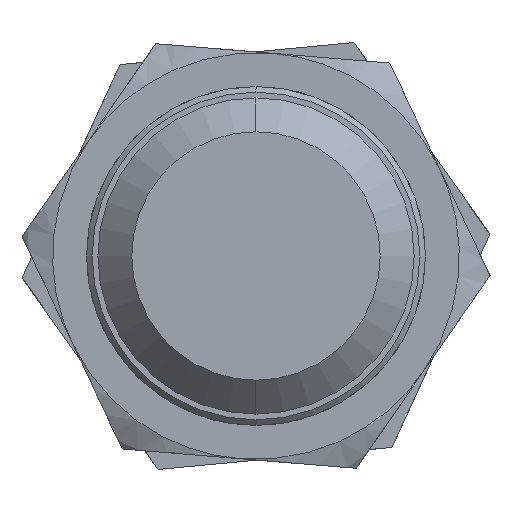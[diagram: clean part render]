
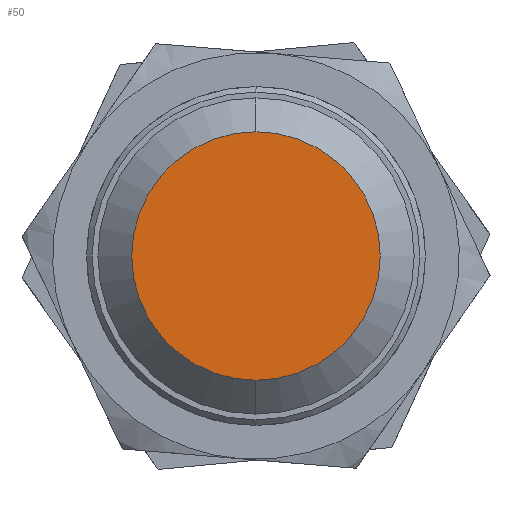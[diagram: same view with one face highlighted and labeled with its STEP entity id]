
A CAD part, left-side view. The second image highlights one B-rep face of the part: STEP entity #50.
In plain terms, the highlighted planar face has unit normal (-1, 0, 0).
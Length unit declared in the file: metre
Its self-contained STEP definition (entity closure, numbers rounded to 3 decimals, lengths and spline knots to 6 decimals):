
#16 = VERTEX_POINT ( 'NONE', #1278 ) ;
#50 = ADVANCED_FACE ( 'NONE', ( #971 ), #560, .F. ) ;
#64 = DIRECTION ( 'NONE',  ( 0., 0., -1. ) ) ;
#180 = ORIENTED_EDGE ( 'NONE', *, *, #1444, .T. ) ;
#233 = VERTEX_POINT ( 'NONE', #438 ) ;
#290 = AXIS2_PLACEMENT_3D ( 'NONE', #935, #1169, #1499 ) ;
#305 = EDGE_LOOP ( 'NONE', ( #601, #180 ) ) ;
#438 = CARTESIAN_POINT ( 'NONE',  ( 0., 0., -0.011 ) ) ;
#545 = DIRECTION ( 'NONE',  ( -1., 0., 0. ) ) ;
#560 = PLANE ( 'NONE',  #290 ) ;
#601 = ORIENTED_EDGE ( 'NONE', *, *, #1307, .T. ) ;
#687 = CIRCLE ( 'NONE', #1328, 0.011 ) ;
#781 = DIRECTION ( 'NONE',  ( -1., 0., 0. ) ) ;
#927 = AXIS2_PLACEMENT_3D ( 'NONE', #1252, #545, #1387 ) ;
#935 = CARTESIAN_POINT ( 'NONE',  ( 0., -0.011132, 0.011132 ) ) ;
#971 = FACE_OUTER_BOUND ( 'NONE', #305, .T. ) ;
#1169 = DIRECTION ( 'NONE',  ( 1., 0., 0. ) ) ;
#1252 = CARTESIAN_POINT ( 'NONE',  ( 0., 0., 0. ) ) ;
#1278 = CARTESIAN_POINT ( 'NONE',  ( 0., 0., 0.011 ) ) ;
#1307 = EDGE_CURVE ( 'NONE', #233, #16, #1438, .T. ) ;
#1328 = AXIS2_PLACEMENT_3D ( 'NONE', #1514, #781, #64 ) ;
#1387 = DIRECTION ( 'NONE',  ( 0., 0., -1. ) ) ;
#1438 = CIRCLE ( 'NONE', #927, 0.011 ) ;
#1444 = EDGE_CURVE ( 'NONE', #16, #233, #687, .T. ) ;
#1499 = DIRECTION ( 'NONE',  ( 0., 0., -1. ) ) ;
#1514 = CARTESIAN_POINT ( 'NONE',  ( 0., 0., 0. ) ) ;
